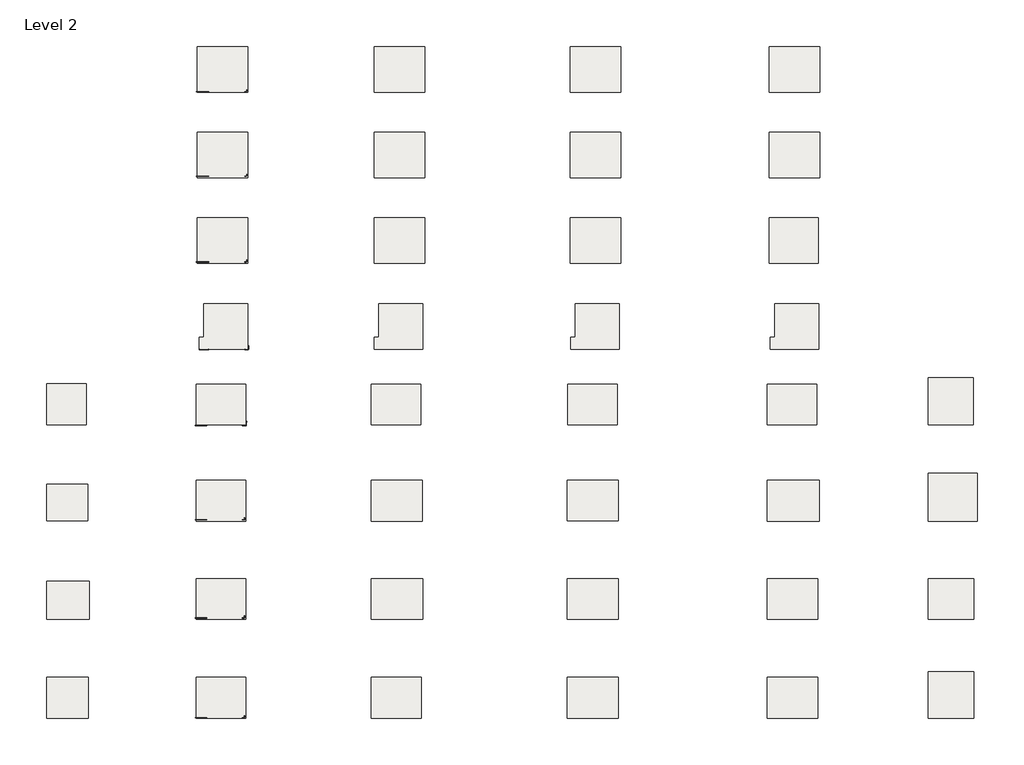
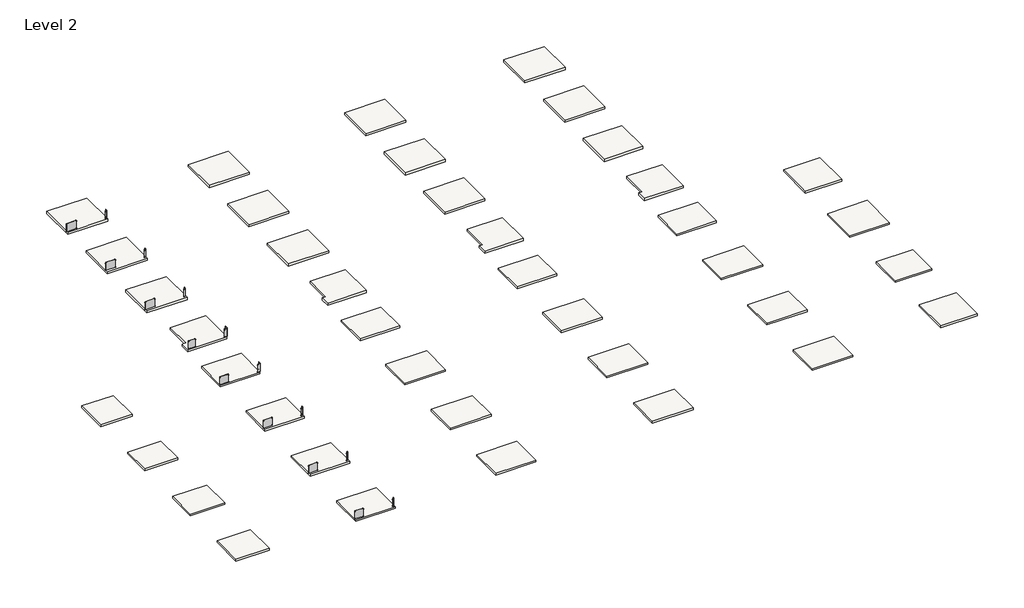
# One storey, incomplete: 40 slabs, 16 railings.
"""IFC4 building model written with IfcOpenShell, lengths in millimetres."""

from ifc_helpers import new_model, si_unit, frame, origin, place, context, project, spatial, polyline, outline, extrude, transform, mapped, element, save
from components import baluster_corner_panel_viva_fascia_glass_540a4684, baluster_corner_panel_viva_fascia_glass_8fd0f557, baluster_corner_panel_viva_fascia_glass_e2692511, baluster_corner_panel_viva_fascia_glass_37de58ab, baluster_corner_panel_viva_standard_glass_f68bcb80, baluster_corner_panel_viva_standard_glass_a9aeb253, baluster_corner_panel_viva_standard_glass_ee1e2aa6, baluster_corner_panel_viva_standard_glass_8a52e0d9, baluster_corner_panel_viva_standard_glass_8e7ea86a, baluster_corner_panel_viva_standard_glass_3b5f7ec9, baluster_corner_panel_viva_standard_glass_2aee224f, baluster_corner_panel_viva_standard_glass_7a828251, baluster_corner_panel_viva_standard_glass_bf03b390, baluster_corner_panel_viva_standard_glass_ba450754, baluster_corner_panel_viva_standard_glass_9f2badbb, baluster_corner_panel_viva_standard_glass_878e4969, fascia_glass_efceab72, fascia_glass_5b908a92, fascia_glass_776a08c6, fascia_glass_6bf159dd, standard_glass_4d50fb5e, standard_glass_4165e235, standard_glass_70e89d08, standard_glass_15c9b434, standard_glass_e476765a, standard_glass_6db6d0f4, standard_glass_ddde132f, standard_glass_423f5456, standard_glass_b81fef86, standard_glass_f35e9e72, standard_glass_ff66e2a0, standard_glass_08027069

model = new_model("IFC4")

# Units and contexts
model_context = context("Model", 3, world=origin())
ifc_project = project(units=[si_unit("LENGTHUNIT", "METRE", prefix="MILLI")], contexts=[model_context])

# Site, building, storey
site = spatial("IfcSite", under=ifc_project)
building = spatial("IfcBuilding", under=site)
storey = spatial("IfcBuildingStorey", under=building, Name="Level 2", Elevation=3048.0)

# Railings
placement = place(None, origin())
baluster_corner_panel_viva_fascia_glass_shape = baluster_corner_panel_viva_fascia_glass_540a4684(model_context)
baluster_corner_panel_viva_fascia_glass_2_shape = baluster_corner_panel_viva_fascia_glass_8fd0f557(model_context)
element("IfcRailing", 1, ObjectType="Baluster-Corner-Panel-VIVA : Fascia_Glass", at=placement, inside=storey, context=model_context, shape_type="MappedRepresentation", body=[
    mapped(baluster_corner_panel_viva_fascia_glass_shape, transform((7837.4873682, 14837.956269, 3048.0), x_axis=(1.0, 0.0, 0.0), y_axis=(0.0, 1.0, 0.0), z_axis=(0.0, 0.0, 1.0))),
    mapped(baluster_corner_panel_viva_fascia_glass_2_shape, transform((7837.4873682, 14837.956269, 3048.0), x_axis=(1.0, 0.0, 0.0), y_axis=(0.0, 1.0, 0.0), z_axis=(0.0, 0.0, 1.0))),
])
baluster_corner_panel_viva_fascia_glass_3_shape = baluster_corner_panel_viva_fascia_glass_e2692511(model_context)
baluster_corner_panel_viva_fascia_glass_4_shape = baluster_corner_panel_viva_fascia_glass_37de58ab(model_context)
element("IfcRailing", 2, ObjectType="Baluster-Corner-Panel-VIVA : Fascia_Glass", at=placement, inside=storey, context=model_context, shape_type="MappedRepresentation", body=[
    mapped(baluster_corner_panel_viva_fascia_glass_3_shape, transform((8014.7478814, 21318.9151774, 3048.0), x_axis=(1.0, 0.0, 0.0), y_axis=(0.0, 1.0, 0.0), z_axis=(0.0, 0.0, 1.0))),
    mapped(baluster_corner_panel_viva_fascia_glass_4_shape, transform((8014.7478814, 21318.9151774, 3048.0), x_axis=(1.0, 0.0, 0.0), y_axis=(0.0, 1.0, 0.0), z_axis=(0.0, 0.0, 1.0))),
])
baluster_corner_panel_viva_standard_glass_shape = baluster_corner_panel_viva_standard_glass_f68bcb80(model_context)
baluster_corner_panel_viva_standard_glass_2_shape = baluster_corner_panel_viva_standard_glass_a9aeb253(model_context)
element("IfcRailing", 3, ObjectType="Baluster-Corner-Panel-VIVA : Standard_Glass", at=placement, inside=storey, context=model_context, shape_type="MappedRepresentation", body=[
    mapped(baluster_corner_panel_viva_standard_glass_shape, transform((7676.2037376, -10127.056031, 3048.0), x_axis=(1.0, 0.0, 0.0), y_axis=(0.0, 1.0, 0.0), z_axis=(0.0, 0.0, 1.0))),
    mapped(baluster_corner_panel_viva_standard_glass_2_shape, transform((7676.2037376, -10127.056031, 3048.0), x_axis=(1.0, 0.0, 0.0), y_axis=(0.0, 1.0, 0.0), z_axis=(0.0, 0.0, 1.0))),
])
baluster_corner_panel_viva_standard_glass_3_shape = baluster_corner_panel_viva_standard_glass_ee1e2aa6(model_context)
baluster_corner_panel_viva_standard_glass_4_shape = baluster_corner_panel_viva_standard_glass_8a52e0d9(model_context)
element("IfcRailing", 4, ObjectType="Baluster-Corner-Panel-VIVA : Standard_Glass", at=placement, inside=storey, context=model_context, shape_type="MappedRepresentation", body=[
    mapped(baluster_corner_panel_viva_standard_glass_3_shape, transform((7676.2037376, -1605.356031, 3048.0), x_axis=(1.0, 0.0, 0.0), y_axis=(0.0, 1.0, 0.0), z_axis=(0.0, 0.0, 1.0))),
    mapped(baluster_corner_panel_viva_standard_glass_4_shape, transform((7676.2037376, -1605.356031, 3048.0), x_axis=(1.0, 0.0, 0.0), y_axis=(0.0, 1.0, 0.0), z_axis=(0.0, 0.0, 1.0))),
])
baluster_corner_panel_viva_standard_glass_5_shape = baluster_corner_panel_viva_standard_glass_8e7ea86a(model_context)
baluster_corner_panel_viva_standard_glass_6_shape = baluster_corner_panel_viva_standard_glass_3b5f7ec9(model_context)
element("IfcRailing", 5, ObjectType="Baluster-Corner-Panel-VIVA : Standard_Glass", at=placement, inside=storey, context=model_context, shape_type="MappedRepresentation", body=[
    mapped(baluster_corner_panel_viva_standard_glass_5_shape, transform((7857.9910714, 28799.2151774, 3048.0), x_axis=(1.0, 0.0, 0.0), y_axis=(0.0, 1.0, 0.0), z_axis=(0.0, 0.0, 1.0))),
    mapped(baluster_corner_panel_viva_standard_glass_6_shape, transform((7857.9910714, 28799.2151774, 3048.0), x_axis=(1.0, 0.0, 0.0), y_axis=(0.0, 1.0, 0.0), z_axis=(0.0, 0.0, 1.0))),
])
baluster_corner_panel_viva_standard_glass_7_shape = baluster_corner_panel_viva_standard_glass_2aee224f(model_context)
baluster_corner_panel_viva_standard_glass_8_shape = baluster_corner_panel_viva_standard_glass_7a828251(model_context)
element("IfcRailing", 6, ObjectType="Baluster-Corner-Panel-VIVA : Standard_Glass", at=placement, inside=storey, context=model_context, shape_type="MappedRepresentation", body=[
    mapped(baluster_corner_panel_viva_standard_glass_7_shape, transform((7857.9910714, 36114.4151774, 3048.0), x_axis=(1.0, 0.0, 0.0), y_axis=(0.0, 1.0, 0.0), z_axis=(0.0, 0.0, 1.0))),
    mapped(baluster_corner_panel_viva_standard_glass_8_shape, transform((7857.9910714, 36114.4151774, 3048.0), x_axis=(1.0, 0.0, 0.0), y_axis=(0.0, 1.0, 0.0), z_axis=(0.0, 0.0, 1.0))),
])
baluster_corner_panel_viva_standard_glass_9_shape = baluster_corner_panel_viva_standard_glass_bf03b390(model_context)
baluster_corner_panel_viva_standard_glass_10_shape = baluster_corner_panel_viva_standard_glass_ba450754(model_context)
element("IfcRailing", 7, ObjectType="Baluster-Corner-Panel-VIVA : Standard_Glass", at=placement, inside=storey, context=model_context, shape_type="MappedRepresentation", body=[
    mapped(baluster_corner_panel_viva_standard_glass_9_shape, transform((7857.9910714, 43340.7151774, 3048.0), x_axis=(1.0, 0.0, 0.0), y_axis=(0.0, 1.0, 0.0), z_axis=(0.0, 0.0, 1.0))),
    mapped(baluster_corner_panel_viva_standard_glass_10_shape, transform((7857.9910714, 43340.7151774, 3048.0), x_axis=(1.0, 0.0, 0.0), y_axis=(0.0, 1.0, 0.0), z_axis=(0.0, 0.0, 1.0))),
])
baluster_corner_panel_viva_standard_glass_11_shape = baluster_corner_panel_viva_standard_glass_9f2badbb(model_context)
baluster_corner_panel_viva_standard_glass_12_shape = baluster_corner_panel_viva_standard_glass_878e4969(model_context)
element("IfcRailing", 8, ObjectType="Baluster-Corner-Panel-VIVA : Standard_Glass", at=placement, inside=storey, context=model_context, shape_type="MappedRepresentation", body=[
    mapped(baluster_corner_panel_viva_standard_glass_11_shape, transform((7680.7305582, 6773.456269, 3048.0), x_axis=(1.0, 0.0, 0.0), y_axis=(0.0, 1.0, 0.0), z_axis=(0.0, 0.0, 1.0))),
    mapped(baluster_corner_panel_viva_standard_glass_12_shape, transform((7680.7305582, 6773.456269, 3048.0), x_axis=(1.0, 0.0, 0.0), y_axis=(0.0, 1.0, 0.0), z_axis=(0.0, 0.0, 1.0))),
])
fascia_glass_shape = fascia_glass_efceab72(model_context)
fascia_glass_2_shape = fascia_glass_5b908a92(model_context)
element("IfcRailing", 9, ObjectType="Baluster-Excess-Fill-Straight-Panel-VIVA : Fascia_Glass", at=placement, inside=storey, context=model_context, shape_type="MappedRepresentation", body=[
    mapped(fascia_glass_shape, transform((4436.4896569, 14837.956269, 3048.0), x_axis=(0.0, -1.0, 0.0), y_axis=(1.0, 0.0, 0.0), z_axis=(0.0, 0.0, 1.0))),
    mapped(fascia_glass_2_shape, transform((4436.4896569, 14837.956269, 3048.0), x_axis=(0.0, -1.0, 0.0), y_axis=(1.0, 0.0, 0.0), z_axis=(0.0, 0.0, 1.0))),
])
fascia_glass_3_shape = fascia_glass_776a08c6(model_context)
fascia_glass_4_shape = fascia_glass_6bf159dd(model_context)
element("IfcRailing", 10, ObjectType="Baluster-Excess-Fill-Straight-Panel-VIVA : Fascia_Glass", at=placement, inside=storey, context=model_context, shape_type="MappedRepresentation", body=[
    mapped(fascia_glass_3_shape, transform((4625.3268041, 21315.7274774, 3048.0), x_axis=(0.0, -1.0, 0.0), y_axis=(1.0, 0.0, 0.0), z_axis=(0.0, 0.0, 1.0))),
    mapped(fascia_glass_4_shape, transform((4625.3268041, 21315.7274774, 3048.0), x_axis=(0.0, -1.0, 0.0), y_axis=(1.0, 0.0, 0.0), z_axis=(0.0, 0.0, 1.0))),
])
standard_glass_shape = standard_glass_4d50fb5e(model_context)
standard_glass_2_shape = standard_glass_4165e235(model_context)
element("IfcRailing", 11, ObjectType="Baluster-Excess-Fill-Straight-Panel-VIVA : Standard_Glass", at=placement, inside=storey, context=model_context, shape_type="MappedRepresentation", body=[
    mapped(standard_glass_shape, transform((4439.2309903, -10130.243731, 3048.0), x_axis=(0.0, -1.0, 0.0), y_axis=(1.0, 0.0, 0.0), z_axis=(0.0, 0.0, 1.0))),
    mapped(standard_glass_2_shape, transform((4439.2309903, -10130.243731, 3048.0), x_axis=(0.0, -1.0, 0.0), y_axis=(1.0, 0.0, 0.0), z_axis=(0.0, 0.0, 1.0))),
])
standard_glass_3_shape = standard_glass_70e89d08(model_context)
standard_glass_4_shape = standard_glass_15c9b434(model_context)
element("IfcRailing", 12, ObjectType="Baluster-Excess-Fill-Straight-Panel-VIVA : Standard_Glass", at=placement, inside=storey, context=model_context, shape_type="MappedRepresentation", body=[
    mapped(standard_glass_3_shape, transform((4439.8826323, -1608.543731, 3048.0), x_axis=(0.0, -1.0, 0.0), y_axis=(1.0, 0.0, 0.0), z_axis=(0.0, 0.0, 1.0))),
    mapped(standard_glass_4_shape, transform((4439.8826323, -1608.543731, 3048.0), x_axis=(0.0, -1.0, 0.0), y_axis=(1.0, 0.0, 0.0), z_axis=(0.0, 0.0, 1.0))),
])
standard_glass_5_shape = standard_glass_e476765a(model_context)
standard_glass_6_shape = standard_glass_6db6d0f4(model_context)
element("IfcRailing", 13, ObjectType="Baluster-Excess-Fill-Straight-Panel-VIVA : Standard_Glass", at=placement, inside=storey, context=model_context, shape_type="MappedRepresentation", body=[
    mapped(standard_glass_5_shape, transform((4442.5693334, 6773.456269, 3048.0), x_axis=(0.0, -1.0, 0.0), y_axis=(1.0, 0.0, 0.0), z_axis=(0.0, 0.0, 1.0))),
    mapped(standard_glass_6_shape, transform((4442.5693334, 6773.456269, 3048.0), x_axis=(0.0, -1.0, 0.0), y_axis=(1.0, 0.0, 0.0), z_axis=(0.0, 0.0, 1.0))),
])
standard_glass_7_shape = standard_glass_ddde132f(model_context)
standard_glass_8_shape = standard_glass_423f5456(model_context)
element("IfcRailing", 14, ObjectType="Baluster-Excess-Fill-Straight-Panel-VIVA : Standard_Glass", at=placement, inside=storey, context=model_context, shape_type="MappedRepresentation", body=[
    mapped(standard_glass_7_shape, transform((4624.8233088, 28796.0274774, 3048.0), x_axis=(0.0, -1.0, 0.0), y_axis=(1.0, 0.0, 0.0), z_axis=(0.0, 0.0, 1.0))),
    mapped(standard_glass_8_shape, transform((4624.8233088, 28796.0274774, 3048.0), x_axis=(0.0, -1.0, 0.0), y_axis=(1.0, 0.0, 0.0), z_axis=(0.0, 0.0, 1.0))),
])
standard_glass_9_shape = standard_glass_b81fef86(model_context)
standard_glass_10_shape = standard_glass_f35e9e72(model_context)
element("IfcRailing", 15, ObjectType="Baluster-Excess-Fill-Straight-Panel-VIVA : Standard_Glass", at=placement, inside=storey, context=model_context, shape_type="MappedRepresentation", body=[
    mapped(standard_glass_9_shape, transform((4631.9553921, 36111.2274774, 3048.0), x_axis=(0.0, -1.0, 0.0), y_axis=(1.0, 0.0, 0.0), z_axis=(0.0, 0.0, 1.0))),
    mapped(standard_glass_10_shape, transform((4631.9553921, 36111.2274774, 3048.0), x_axis=(0.0, -1.0, 0.0), y_axis=(1.0, 0.0, 0.0), z_axis=(0.0, 0.0, 1.0))),
])
standard_glass_11_shape = standard_glass_ff66e2a0(model_context)
standard_glass_12_shape = standard_glass_08027069(model_context)
element("IfcRailing", 16, ObjectType="Baluster-Excess-Fill-Straight-Panel-VIVA : Standard_Glass", at=placement, inside=storey, context=model_context, shape_type="MappedRepresentation", body=[
    mapped(standard_glass_11_shape, transform((4631.9553921, 43337.5274774, 3048.0), x_axis=(0.0, -1.0, 0.0), y_axis=(1.0, 0.0, 0.0), z_axis=(0.0, 0.0, 1.0))),
    mapped(standard_glass_12_shape, transform((4631.9553921, 43337.5274774, 3048.0), x_axis=(0.0, -1.0, 0.0), y_axis=(1.0, 0.0, 0.0), z_axis=(0.0, 0.0, 1.0))),
])

# Slabs
element("IfcSlab", 17, ObjectType="Generic - 7 3/4\"", at=placement, inside=storey, context=model_context, shape_type="SweptSolid", body=[
    extrude(outline(polyline([(-5821.1213318, 14856.764969), (-9199.3213318, 14856.764969), (-9199.3213318, 18374.664969), (-5821.1213318, 18374.664969), (-5821.1213318, 14856.764969)])), frame((0.0, 0.0, 2851.912), z_axis=(0.0, 0.0, 1.0), x_axis=(1.0, 0.0, 0.0)), (0.0, 0.0, 1.0), 196.088),
])
element("IfcSlab", 18, ObjectType="Generic - 7 3/4\"", at=placement, inside=storey, context=model_context, shape_type="SweptSolid", body=[
    extrude(outline(polyline([(-5694.1213318, 6677.964969), (-9199.3213318, 6677.964969), (-9199.3213318, 9802.164969), (-5694.1213318, 9802.164969), (-5694.1213318, 6677.964969)])), frame((0.0, 0.0, 2851.912), z_axis=(0.0, 0.0, 1.0), x_axis=(1.0, 0.0, 0.0)), (0.0, 0.0, 1.0), 196.088),
])
element("IfcSlab", 19, ObjectType="Generic - 7 3/4\"", at=placement, inside=storey, context=model_context, shape_type="SweptSolid", body=[
    extrude(outline(polyline([(-5541.7213318, -1754.835031), (-9199.3213318, -1754.835031), (-9199.3213318, 1521.764969), (-5541.7213318, 1521.764969), (-5541.7213318, -1754.835031)])), frame((0.0, 0.0, 2851.912), z_axis=(0.0, 0.0, 1.0), x_axis=(1.0, 0.0, 0.0)), (0.0, 0.0, 1.0), 196.088),
])
element("IfcSlab", 20, ObjectType="Generic - 7 3/4\"", at=placement, inside=storey, context=model_context, shape_type="SweptSolid", body=[
    extrude(outline(polyline([(-5651.3294161, -10187.635031), (-9199.3213318, -10187.635031), (-9199.3213318, -6707.835031), (-5651.3294161, -6707.835031), (-5651.3294161, -10187.635031)])), frame((0.0, 0.0, 2851.912), z_axis=(0.0, 0.0, 1.0), x_axis=(1.0, 0.0, 0.0)), (0.0, 0.0, 1.0), 196.088),
])
element("IfcSlab", 21, ObjectType="Generic - 7 3/4\"", at=placement, inside=storey, context=model_context, shape_type="SweptSolid", body=[
    extrude(outline(polyline([(7818.6786682, -10187.635031), (3602.2786682, -10187.635031), (3602.2786682, -6707.835031), (7818.6786682, -6707.835031), (7818.6786682, -10187.635031)])), frame((0.0, 0.0, 2851.912), z_axis=(0.0, 0.0, 1.0), x_axis=(1.0, 0.0, 0.0)), (0.0, 0.0, 1.0), 196.088),
])
element("IfcSlab", 22, ObjectType="Generic - 7 3/4\"", at=placement, inside=storey, context=model_context, shape_type="SweptSolid", body=[
    extrude(outline(polyline([(39639.9606048, -10187.635031), (35289.349343, -10187.635031), (35289.349343, -6707.835031), (39639.9606048, -6707.835031), (39639.9606048, -10187.635031)])), frame((0.0, 0.0, 2851.912), z_axis=(0.0, 0.0, 1.0), x_axis=(1.0, 0.0, 0.0)), (0.0, 0.0, 1.0), 196.088),
])
element("IfcSlab", 23, ObjectType="Generic - 7 3/4\"", at=placement, inside=storey, context=model_context, shape_type="SweptSolid", body=[
    extrude(outline(polyline([(7818.6786682, -1754.835031), (3602.2786682, -1754.835031), (3602.2786682, 1724.964969), (7818.6786682, 1724.964969), (7818.6786682, -1754.835031)])), frame((0.0, 0.0, 2851.912), z_axis=(0.0, 0.0, 1.0), x_axis=(1.0, 0.0, 0.0)), (0.0, 0.0, 1.0), 196.088),
])
element("IfcSlab", 24, ObjectType="Generic - 7 3/4\"", at=placement, inside=storey, context=model_context, shape_type="SweptSolid", body=[
    extrude(outline(polyline([(7818.6786682, 6627.164969), (3602.2786682, 6627.164969), (3602.2786682, 10106.964969), (7818.6786682, 10106.964969), (7818.6786682, 6627.164969)])), frame((0.0, 0.0, 2851.912), z_axis=(0.0, 0.0, 1.0), x_axis=(1.0, 0.0, 0.0)), (0.0, 0.0, 1.0), 196.088),
])
element("IfcSlab", 25, ObjectType="Generic - 7 3/4\"", at=placement, inside=storey, context=model_context, shape_type="SweptSolid", body=[
    extrude(outline(polyline([(7818.6786682, 14856.764969), (3602.2786682, 14856.764969), (3602.2786682, 18336.564969), (7818.6786682, 18336.564969), (7818.6786682, 14856.764969)])), frame((0.0, 0.0, 2851.912), z_axis=(0.0, 0.0, 1.0), x_axis=(1.0, 0.0, 0.0)), (0.0, 0.0, 1.0), 196.088),
])
element("IfcSlab", 26, ObjectType="Generic - 7 3/4\"", at=placement, inside=storey, context=model_context, shape_type="SweptSolid", body=[
    extrude(outline(polyline([(22802.5534842, -10187.635031), (18537.4786682, -10187.635031), (18537.4786682, -6707.835031), (22802.5534842, -6707.835031), (22802.5534842, -10187.635031)])), frame((0.0, 0.0, 2851.912), z_axis=(0.0, 0.0, 1.0), x_axis=(1.0, 0.0, 0.0)), (0.0, 0.0, 1.0), 196.088),
])
element("IfcSlab", 27, ObjectType="Generic - 7 3/4\"", at=placement, inside=storey, context=model_context, shape_type="SweptSolid", body=[
    extrude(outline(polyline([(22932.7284842, -1754.835031), (18537.4786682, -1754.835031), (18537.4786682, 1724.964969), (22932.7284842, 1724.964969), (22932.7284842, -1754.835031)])), frame((0.0, 0.0, 2851.912), z_axis=(0.0, 0.0, 1.0), x_axis=(1.0, 0.0, 0.0)), (0.0, 0.0, 1.0), 196.088),
])
element("IfcSlab", 28, ObjectType="Generic - 7 3/4\"", at=placement, inside=storey, context=model_context, shape_type="SweptSolid", body=[
    extrude(outline(polyline([(22891.4534842, 6627.164969), (18537.4786682, 6627.164969), (18537.4786682, 10106.964969), (22891.4534842, 10106.964969), (22891.4534842, 6627.164969)])), frame((0.0, 0.0, 2851.912), z_axis=(0.0, 0.0, 1.0), x_axis=(1.0, 0.0, 0.0)), (0.0, 0.0, 1.0), 196.088),
])
element("IfcSlab", 29, ObjectType="Generic - 7 3/4\"", at=placement, inside=storey, context=model_context, shape_type="SweptSolid", body=[
    extrude(outline(polyline([(22753.8786682, 14856.764969), (18537.4786682, 14856.764969), (18537.4786682, 18336.564969), (22753.8786682, 18336.564969), (22753.8786682, 14856.764969)])), frame((0.0, 0.0, 2851.912), z_axis=(0.0, 0.0, 1.0), x_axis=(1.0, 0.0, 0.0)), (0.0, 0.0, 1.0), 196.088),
])
element("IfcSlab", 30, ObjectType="Generic - 7 3/4\"", at=placement, inside=storey, context=model_context, shape_type="SweptSolid", body=[
    extrude(outline(polyline([(56669.261659, -10187.635031), (52358.149343, -10187.635031), (52358.149343, -6707.835031), (56669.261659, -6707.835031), (56669.261659, -10187.635031)])), frame((0.0, 0.0, 2851.912), z_axis=(0.0, 0.0, 1.0), x_axis=(1.0, 0.0, 0.0)), (0.0, 0.0, 1.0), 196.088),
])
element("IfcSlab", 31, ObjectType="Generic - 7 3/4\"", at=placement, inside=storey, context=model_context, shape_type="SweptSolid", body=[
    extrude(outline(polyline([(56670.849159, -1754.835031), (52358.149343, -1754.835031), (52358.149343, 1724.964969), (56670.849159, 1724.964969), (56670.849159, -1754.835031)])), frame((0.0, 0.0, 2851.912), z_axis=(0.0, 0.0, 1.0), x_axis=(1.0, 0.0, 0.0)), (0.0, 0.0, 1.0), 196.088),
])
element("IfcSlab", 32, ObjectType="Generic - 7 3/4\"", at=placement, inside=storey, context=model_context, shape_type="SweptSolid", body=[
    extrude(outline(polyline([(56770.861659, 6627.164969), (52358.149343, 6627.164969), (52358.149343, 10106.964969), (56770.861659, 10106.964969), (56770.861659, 6627.164969)])), frame((0.0, 0.0, 2851.912), z_axis=(0.0, 0.0, 1.0), x_axis=(1.0, 0.0, 0.0)), (0.0, 0.0, 1.0), 196.088),
])
element("IfcSlab", 33, ObjectType="Generic - 7 3/4\"", at=placement, inside=storey, context=model_context, shape_type="SweptSolid", body=[
    extrude(outline(polyline([(56574.549343, 14856.764969), (52358.149343, 14856.764969), (52358.149343, 18336.564969), (56574.549343, 18336.564969), (56574.549343, 14856.764969)])), frame((0.0, 0.0, 2851.912), z_axis=(0.0, 0.0, 1.0), x_axis=(1.0, 0.0, 0.0)), (0.0, 0.0, 1.0), 196.088),
])
element("IfcSlab", 34, ObjectType="Generic - 7 3/4\"", at=placement, inside=storey, context=model_context, shape_type="SweptSolid", body=[
    extrude(outline(polyline([(69997.8786682, -10187.635031), (66086.2786682, -10187.635031), (66086.2786682, -6225.235031), (69997.8786682, -6225.235031), (69997.8786682, -10187.635031)])), frame((0.0, 0.0, 2851.912), z_axis=(0.0, 0.0, 1.0), x_axis=(1.0, 0.0, 0.0)), (0.0, 0.0, 1.0), 196.088),
])
element("IfcSlab", 35, ObjectType="Generic - 7 3/4\"", at=placement, inside=storey, context=model_context, shape_type="SweptSolid", body=[
    extrude(outline(polyline([(69972.4786682, -1754.835031), (66086.2786682, -1754.835031), (66086.2786682, 1724.964969), (69972.4786682, 1724.964969), (69972.4786682, -1754.835031)])), frame((0.0, 0.0, 2851.912), z_axis=(0.0, 0.0, 1.0), x_axis=(1.0, 0.0, 0.0)), (0.0, 0.0, 1.0), 196.088),
])
element("IfcSlab", 36, ObjectType="Generic - 7 3/4\"", at=placement, inside=storey, context=model_context, shape_type="SweptSolid", body=[
    extrude(outline(polyline([(70302.6786682, 6627.164969), (66086.2786682, 6627.164969), (66086.2786682, 10741.964969), (70302.6786682, 10741.964969), (70302.6786682, 6627.164969)])), frame((0.0, 0.0, 2851.912), z_axis=(0.0, 0.0, 1.0), x_axis=(1.0, 0.0, 0.0)), (0.0, 0.0, 1.0), 196.088),
])
element("IfcSlab", 37, ObjectType="Generic - 7 3/4\"", at=placement, inside=storey, context=model_context, shape_type="SweptSolid", body=[
    extrude(outline(polyline([(69959.7786682, 14856.764969), (66086.2786682, 14856.764969), (66086.2786682, 18895.364969), (69959.7786682, 18895.364969), (69959.7786682, 14856.764969)])), frame((0.0, 0.0, 2851.912), z_axis=(0.0, 0.0, 1.0), x_axis=(1.0, 0.0, 0.0)), (0.0, 0.0, 1.0), 196.088),
])
element("IfcSlab", 38, ObjectType="Generic - 7 3/4\"", at=placement, inside=storey, context=model_context, shape_type="SweptSolid", body=[
    extrude(outline(polyline([(39643.324159, -1754.835031), (35289.349343, -1754.835031), (35289.349343, 1724.964969), (39643.324159, 1724.964969), (39643.324159, -1754.835031)])), frame((0.0, 0.0, 2851.912), z_axis=(0.0, 0.0, 1.0), x_axis=(1.0, 0.0, 0.0)), (0.0, 0.0, 1.0), 196.088),
])
element("IfcSlab", 39, ObjectType="Generic - 7 3/4\"", at=placement, inside=storey, context=model_context, shape_type="SweptSolid", body=[
    extrude(outline(polyline([(39646.499159, 6677.964969), (35289.349343, 6677.964969), (35289.349343, 10106.964969), (39646.499159, 10106.964969), (39646.499159, 6677.964969)])), frame((0.0, 0.0, 2851.912), z_axis=(0.0, 0.0, 1.0), x_axis=(1.0, 0.0, 0.0)), (0.0, 0.0, 1.0), 196.088),
])
element("IfcSlab", 40, ObjectType="Generic - 7 3/4\"", at=placement, inside=storey, context=model_context, shape_type="SweptSolid", body=[
    extrude(outline(polyline([(39529.967533, 14856.764969), (35301.4786682, 14856.764969), (35301.4786682, 18336.564969), (39529.967533, 18336.564969), (39529.967533, 14856.764969)])), frame((0.0, 0.0, 2851.912), z_axis=(0.0, 0.0, 1.0), x_axis=(1.0, 0.0, 0.0)), (0.0, 0.0, 1.0), 196.088),
])
element("IfcSlab", 41, ObjectType="Generic -6 1/2\"", at=placement, inside=storey, context=model_context, shape_type="SweptSolid", body=[
    extrude(outline(polyline([(8000.4660021, 21334.5361774), (3853.9160021, 21334.5361774), (3853.9160021, 22350.5361774), (4241.2660021, 22350.5361774), (4241.2660021, 25220.7361774), (8000.4660021, 25220.7361774), (8000.4660021, 21334.5361774)])), frame((0.0, 0.0, 2803.4234), z_axis=(0.0, 0.0, 1.0), x_axis=(1.0, 0.0, 0.0)), (0.0, 0.0, 1.0), 244.5766),
])
element("IfcSlab", 42, ObjectType="Generic -6 1/2\"", at=placement, inside=storey, context=model_context, shape_type="SweptSolid", body=[
    extrude(outline(polyline([(8000.4660021, 43280.1361774), (3689.3536861, 43280.1361774), (3689.3536861, 47166.3361774), (8000.4660021, 47166.3361774), (8000.4660021, 43280.1361774)])), frame((0.0, 0.0, 2803.4234), z_axis=(0.0, 0.0, 1.0), x_axis=(1.0, 0.0, 0.0)), (0.0, 0.0, 1.0), 244.5766),
])
element("IfcSlab", 43, ObjectType="Generic -6 1/2\"", at=placement, inside=storey, context=model_context, shape_type="SweptSolid", body=[
    extrude(outline(polyline([(8000.4660021, 35964.9361774), (3689.3536861, 35964.9361774), (3689.3536861, 39851.1361774), (8000.4660021, 39851.1361774), (8000.4660021, 35964.9361774)])), frame((0.0, 0.0, 2803.4234), z_axis=(0.0, 0.0, 1.0), x_axis=(1.0, 0.0, 0.0)), (0.0, 0.0, 1.0), 244.5766),
])
element("IfcSlab", 44, ObjectType="Generic -6 1/2\"", at=placement, inside=storey, context=model_context, shape_type="SweptSolid", body=[
    extrude(outline(polyline([(8000.4660021, 28649.7361774), (3689.3536861, 28649.7361774), (3689.3536861, 32535.9361774), (8000.4660021, 32535.9361774), (8000.4660021, 28649.7361774)])), frame((0.0, 0.0, 2803.4234), z_axis=(0.0, 0.0, 1.0), x_axis=(1.0, 0.0, 0.0)), (0.0, 0.0, 1.0), 244.5766),
])
element("IfcSlab", 45, ObjectType="Generic -6 1/2\"", at=placement, inside=storey, context=model_context, shape_type="SweptSolid", body=[
    extrude(outline(polyline([(22935.6660021, 21334.5361774), (18789.1160021, 21334.5361774), (18789.1160021, 22350.5361774), (19176.4660021, 22350.5361774), (19176.4660021, 25220.7361774), (22935.6660021, 25220.7361774), (22935.6660021, 21334.5361774)])), frame((0.0, 0.0, 2803.4234), z_axis=(0.0, 0.0, 1.0), x_axis=(1.0, 0.0, 0.0)), (0.0, 0.0, 1.0), 244.5766),
])
element("IfcSlab", 46, ObjectType="Generic -6 1/2\"", at=placement, inside=storey, context=model_context, shape_type="SweptSolid", body=[
    extrude(outline(polyline([(23114.515818, 43280.1361774), (18803.4035021, 43280.1361774), (18803.4035021, 47166.3361774), (23114.515818, 47166.3361774), (23114.515818, 43280.1361774)])), frame((0.0, 0.0, 2803.4234), z_axis=(0.0, 0.0, 1.0), x_axis=(1.0, 0.0, 0.0)), (0.0, 0.0, 1.0), 244.5766),
])
element("IfcSlab", 47, ObjectType="Generic -6 1/2\"", at=placement, inside=storey, context=model_context, shape_type="SweptSolid", body=[
    extrude(outline(polyline([(23114.515818, 35964.9361774), (18803.4035021, 35964.9361774), (18803.4035021, 39851.1361774), (23114.515818, 39851.1361774), (23114.515818, 35964.9361774)])), frame((0.0, 0.0, 2803.4234), z_axis=(0.0, 0.0, 1.0), x_axis=(1.0, 0.0, 0.0)), (0.0, 0.0, 1.0), 244.5766),
])
element("IfcSlab", 48, ObjectType="Generic -6 1/2\"", at=placement, inside=storey, context=model_context, shape_type="SweptSolid", body=[
    extrude(outline(polyline([(23114.515818, 28649.7361774), (18803.4035021, 28649.7361774), (18803.4035021, 32535.9361774), (23114.515818, 32535.9361774), (23114.515818, 28649.7361774)])), frame((0.0, 0.0, 2803.4234), z_axis=(0.0, 0.0, 1.0), x_axis=(1.0, 0.0, 0.0)), (0.0, 0.0, 1.0), 244.5766),
])
element("IfcSlab", 49, ObjectType="Generic -6 1/2\"", at=placement, inside=storey, context=model_context, shape_type="SweptSolid", body=[
    extrude(outline(polyline([(39711.7548668, 21334.5361774), (35565.2048668, 21334.5361774), (35565.2048668, 22350.5361774), (35952.5548668, 22350.5361774), (35952.5548668, 25220.7361774), (39711.7548668, 25220.7361774), (39711.7548668, 21334.5361774)])), frame((0.0, 0.0, 2803.4234), z_axis=(0.0, 0.0, 1.0), x_axis=(1.0, 0.0, 0.0)), (0.0, 0.0, 1.0), 244.5766),
])
element("IfcSlab", 50, ObjectType="Generic -6 1/2\"", at=placement, inside=storey, context=model_context, shape_type="SweptSolid", body=[
    extrude(outline(polyline([(39825.1114928, 43280.1361774), (35513.9991768, 43280.1361774), (35513.9991768, 47166.3361774), (39825.1114928, 47166.3361774), (39825.1114928, 43280.1361774)])), frame((0.0, 0.0, 2803.4234), z_axis=(0.0, 0.0, 1.0), x_axis=(1.0, 0.0, 0.0)), (0.0, 0.0, 1.0), 244.5766),
])
element("IfcSlab", 51, ObjectType="Generic -6 1/2\"", at=placement, inside=storey, context=model_context, shape_type="SweptSolid", body=[
    extrude(outline(polyline([(39825.1114928, 35964.9361774), (35513.9991768, 35964.9361774), (35513.9991768, 39851.1361774), (39825.1114928, 39851.1361774), (39825.1114928, 35964.9361774)])), frame((0.0, 0.0, 2803.4234), z_axis=(0.0, 0.0, 1.0), x_axis=(1.0, 0.0, 0.0)), (0.0, 0.0, 1.0), 244.5766),
])
element("IfcSlab", 52, ObjectType="Generic -6 1/2\"", at=placement, inside=storey, context=model_context, shape_type="SweptSolid", body=[
    extrude(outline(polyline([(39825.1114928, 28649.7361774), (35513.9991768, 28649.7361774), (35513.9991768, 32535.9361774), (39825.1114928, 32535.9361774), (39825.1114928, 28649.7361774)])), frame((0.0, 0.0, 2803.4234), z_axis=(0.0, 0.0, 1.0), x_axis=(1.0, 0.0, 0.0)), (0.0, 0.0, 1.0), 244.5766),
])
element("IfcSlab", 53, ObjectType="Generic -6 1/2\"", at=placement, inside=storey, context=model_context, shape_type="SweptSolid", body=[
    extrude(outline(polyline([(56756.3366768, 21334.5361774), (52609.7866768, 21334.5361774), (52609.7866768, 22350.5361774), (52997.1366768, 22350.5361774), (52997.1366768, 25220.7361774), (56756.3366768, 25220.7361774), (56756.3366768, 21334.5361774)])), frame((0.0, 0.0, 2803.4234), z_axis=(0.0, 0.0, 1.0), x_axis=(1.0, 0.0, 0.0)), (0.0, 0.0, 1.0), 244.5766),
])
element("IfcSlab", 54, ObjectType="Generic -6 1/2\"", at=placement, inside=storey, context=model_context, shape_type="SweptSolid", body=[
    extrude(outline(polyline([(56688.0741768, 28649.7361774), (52541.5241768, 28649.7361774), (52541.5241768, 32535.9361774), (56688.0741768, 32535.9361774), (56688.0741768, 28649.7361774)])), frame((0.0, 0.0, 2803.4234), z_axis=(0.0, 0.0, 1.0), x_axis=(1.0, 0.0, 0.0)), (0.0, 0.0, 1.0), 244.5766),
])
element("IfcSlab", 55, ObjectType="Generic -6 1/2\"", at=placement, inside=storey, context=model_context, shape_type="SweptSolid", body=[
    extrude(outline(polyline([(56852.6364928, 35964.9361774), (52541.5241768, 35964.9361774), (52541.5241768, 39851.1361774), (56852.6364928, 39851.1361774), (56852.6364928, 35964.9361774)])), frame((0.0, 0.0, 2803.4234), z_axis=(0.0, 0.0, 1.0), x_axis=(1.0, 0.0, 0.0)), (0.0, 0.0, 1.0), 244.5766),
])
element("IfcSlab", 56, ObjectType="Generic -6 1/2\"", at=placement, inside=storey, context=model_context, shape_type="SweptSolid", body=[
    extrude(outline(polyline([(56852.6364928, 43280.1361774), (52541.5241768, 43280.1361774), (52541.5241768, 47166.3361774), (56852.6364928, 47166.3361774), (56852.6364928, 43280.1361774)])), frame((0.0, 0.0, 2803.4234), z_axis=(0.0, 0.0, 1.0), x_axis=(1.0, 0.0, 0.0)), (0.0, 0.0, 1.0), 244.5766),
])

save(model, "model.ifc")
